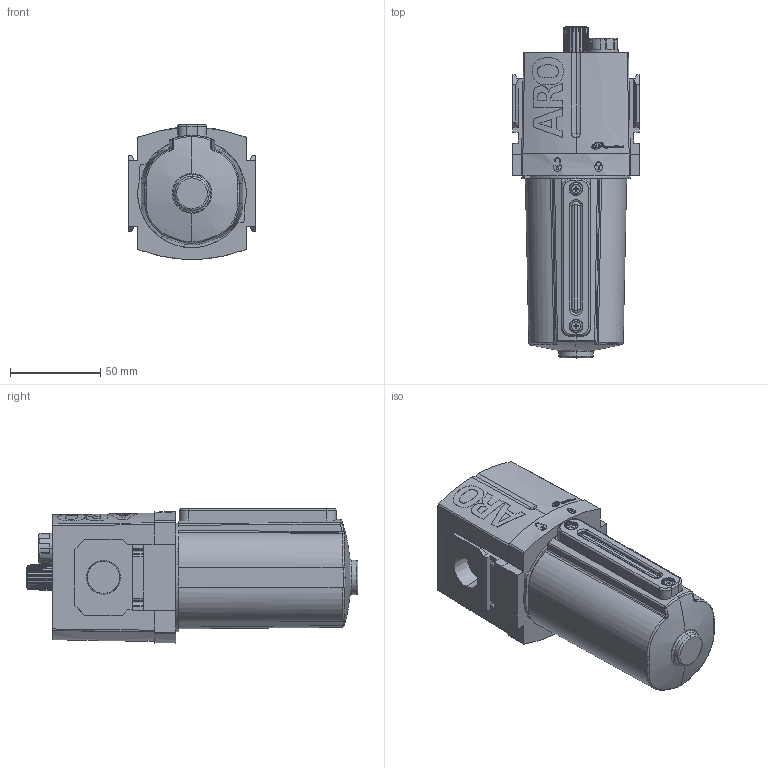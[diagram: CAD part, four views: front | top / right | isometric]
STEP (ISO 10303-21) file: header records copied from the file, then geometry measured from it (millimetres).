
FILE_DESCRIPTION(/* description */ (''),/* implementation_level */ '2;1');
FILE_NAME(/* name */ 'L363X1-X1X_01',/* time_stamp */ '2009-02-05T14:11:30-05:00',/* author */ (''),/* organization */ (''),/* preprocessor_version */ 'ST-DEVELOPER v9',/* originating_system */ 'UGS - NX 4.0',/* authorisation */ '');
FILE_SCHEMA (('AUTOMOTIVE_DESIGN { 1 0 10303 214 1 1 1 1 }'));
Length unit declared in the file: inch
Products named in the file (1): szee378Clf5q
Bounding box: 70 x 183.5 x 74.5 mm (x, y, z)
Volume: 541575.3 mm3; surface area: 49836.6 mm2
Topology: 1 solids, 1 shells, 1109 faces, 2957 edges, 1949 vertices
Faces by surface type: plane 779, cylinder 136, extrusion 81, cone 59, torus 24, bspline 19, revolution 7, sphere 4
Entity records: 48488 total; most frequent: CARTESIAN_POINT 13892, ORIENTED_EDGE 5912, DIRECTION 4908, EDGE_CURVE 2956, VECTOR 2015, VERTEX_POINT 1952, LINE 1934, AXIS2_PLACEMENT_3D 1443
